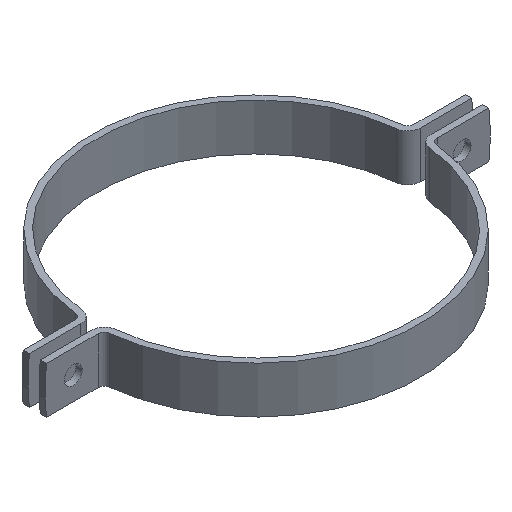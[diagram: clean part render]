
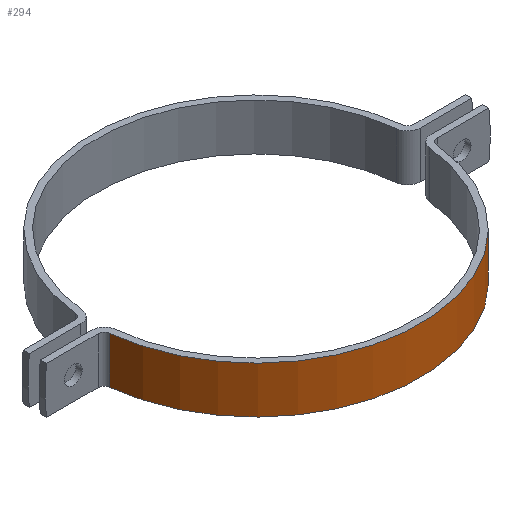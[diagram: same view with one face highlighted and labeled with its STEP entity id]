
A CAD part, isometric view. The second image highlights one B-rep face of the part: STEP entity #294.
In plain terms, the highlighted cylindrical face has radius 211.2 mm (diameter 422.4 mm), a partial arc.
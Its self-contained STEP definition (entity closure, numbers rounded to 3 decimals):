
#25 = CARTESIAN_POINT ( 'NONE',  ( 210.034, -22.161, 0. ) ) ;
#50 = CIRCLE ( 'NONE', #69, 211.2 ) ;
#69 = AXIS2_PLACEMENT_3D ( 'NONE', #1027, #1218, #377 ) ;
#75 = ORIENTED_EDGE ( 'NONE', *, *, #723, .T. ) ;
#173 = AXIS2_PLACEMENT_3D ( 'NONE', #396, #956, #1217 ) ;
#208 = VERTEX_POINT ( 'NONE', #324 ) ;
#209 = VERTEX_POINT ( 'NONE', #25 ) ;
#241 = CARTESIAN_POINT ( 'NONE',  ( 210.034, -22.161, -60. ) ) ;
#243 = ORIENTED_EDGE ( 'NONE', *, *, #498, .F. ) ;
#294 = ADVANCED_FACE ( 'NONE', ( #669 ), #672, .T. ) ;
#296 = CIRCLE ( 'NONE', #604, 211.2 ) ;
#310 = VERTEX_POINT ( 'NONE', #488 ) ;
#324 = CARTESIAN_POINT ( 'NONE',  ( -210.034, -22.161, 0. ) ) ;
#377 = DIRECTION ( 'NONE',  ( 1., 0., 0. ) ) ;
#385 = CARTESIAN_POINT ( 'NONE',  ( 210.034, -22.161, -60. ) ) ;
#396 = CARTESIAN_POINT ( 'NONE',  ( 0., 0., -60. ) ) ;
#425 = EDGE_CURVE ( 'NONE', #208, #209, #296, .T. ) ;
#455 = EDGE_LOOP ( 'NONE', ( #712, #243, #786, #75 ) ) ;
#488 = CARTESIAN_POINT ( 'NONE',  ( -210.034, -22.161, -60. ) ) ;
#498 = EDGE_CURVE ( 'NONE', #310, #208, #743, .T. ) ;
#569 = LINE ( 'NONE', #385, #886 ) ;
#604 = AXIS2_PLACEMENT_3D ( 'NONE', #876, #690, #1241 ) ;
#669 = FACE_OUTER_BOUND ( 'NONE', #455, .T. ) ;
#672 = CYLINDRICAL_SURFACE ( 'NONE', #173, 211.2 ) ;
#690 = DIRECTION ( 'NONE',  ( 0., 0., 1. ) ) ;
#712 = ORIENTED_EDGE ( 'NONE', *, *, #425, .F. ) ;
#723 = EDGE_CURVE ( 'NONE', #1074, #209, #569, .T. ) ;
#738 = DIRECTION ( 'NONE',  ( 0., 0., 1. ) ) ;
#743 = LINE ( 'NONE', #1014, #785 ) ;
#749 = DIRECTION ( 'NONE',  ( 0., 0., 1. ) ) ;
#785 = VECTOR ( 'NONE', #738, 1000. ) ;
#786 = ORIENTED_EDGE ( 'NONE', *, *, #1216, .T. ) ;
#876 = CARTESIAN_POINT ( 'NONE',  ( 0., 0., 0. ) ) ;
#886 = VECTOR ( 'NONE', #749, 1000. ) ;
#956 = DIRECTION ( 'NONE',  ( 0., 0., 1. ) ) ;
#1014 = CARTESIAN_POINT ( 'NONE',  ( -210.034, -22.161, -60. ) ) ;
#1027 = CARTESIAN_POINT ( 'NONE',  ( 0., 0., -60. ) ) ;
#1074 = VERTEX_POINT ( 'NONE', #241 ) ;
#1216 = EDGE_CURVE ( 'NONE', #310, #1074, #50, .T. ) ;
#1217 = DIRECTION ( 'NONE',  ( 1., 0., 0. ) ) ;
#1218 = DIRECTION ( 'NONE',  ( 0., 0., 1. ) ) ;
#1241 = DIRECTION ( 'NONE',  ( 1., 0., 0. ) ) ;
